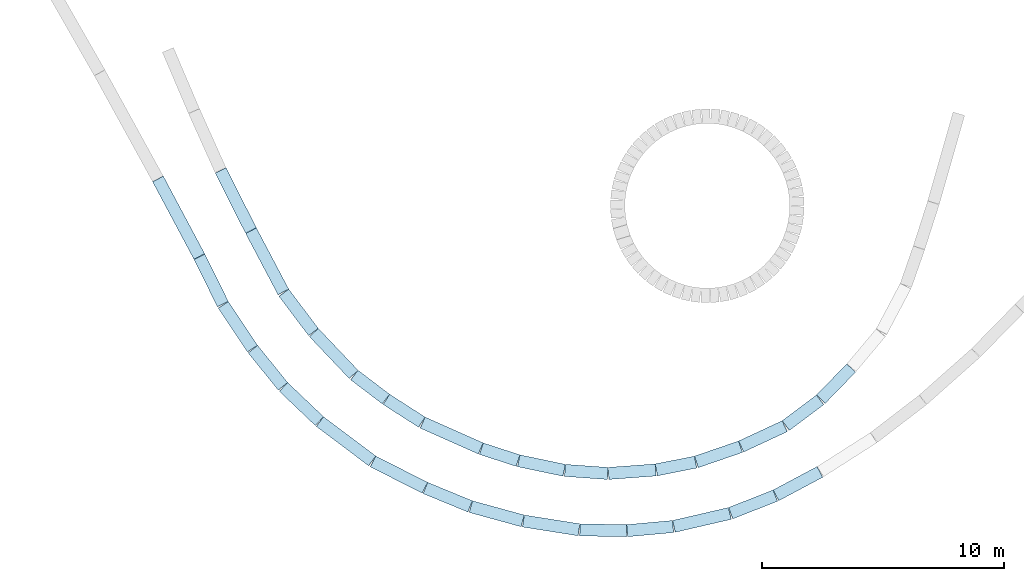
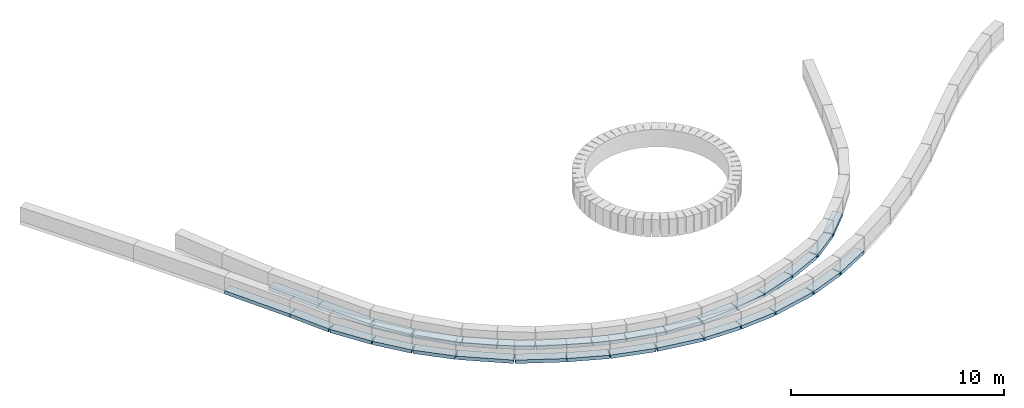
# One storey, part 1 of 3: 31 footings.
"""IFC2X3 building model written with IfcOpenShell, lengths in millimetres."""

from ifc_helpers import new_model, entity, si_unit, converted_unit, direction, origin, origin_with_axes, place, context, project, spatial, faceted_brep, element, save


model = new_model("IFC2X3")

# Units and contexts
model_context = context("Model", 3, precision=1e-05, world=origin(), true_north=direction((0.0, 1.0, 0.0)))
ifc_project = project(units=[si_unit("LENGTHUNIT", "METRE", prefix="MILLI"), si_unit("AREAUNIT", "SQUARE_METRE"), si_unit("VOLUMEUNIT", "CUBIC_METRE"), converted_unit("PLANEANGLEUNIT", "DEGREE", entity("IfcPlaneAngleMeasure", 0.01745), si_unit("PLANEANGLEUNIT", "RADIAN"), dimensions=[0, 0, 0, 0, 0, 0, 0]), si_unit("SOLIDANGLEUNIT", "STERADIAN"), si_unit("MASSUNIT", "GRAM"), si_unit("TIMEUNIT", "SECOND"), si_unit("THERMODYNAMICTEMPERATUREUNIT", "DEGREE_CELSIUS"), si_unit("LUMINOUSINTENSITYUNIT", "LUMEN")], contexts=[model_context])

# Site, building, storey
site_placement = place(None, origin_with_axes())
site = spatial("IfcSite", under=ifc_project, at=site_placement, Name="Default Site", CompositionType="ELEMENT")
building_placement = place(site_placement, origin_with_axes())
building = spatial("IfcBuilding", under=site, at=building_placement, Name="Default Building", CompositionType="ELEMENT")
storey_placement = place(building_placement, origin_with_axes())
storey = spatial("IfcBuildingStorey", under=building, at=storey_placement, Name="Fundação", CompositionType="ELEMENT", Elevation=0.0)

# Footings
footing_1_placement = place(storey_placement, origin_with_axes())
element("IfcFooting", 1, at=footing_1_placement, inside=storey, Name="IfcFooting - IfcFooting - Viga 34 (50x30)", context=model_context, shape_type="Brep", body=[
    faceted_brep([(2842.74104471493, -11232.03574500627, -2350.000011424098), (2842.74104471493, -11232.03574500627, -2150.000008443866), (4603.798958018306, -11357.05216608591, -2150.000008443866), (4603.798958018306, -11357.05216608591, -2350.000011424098), (2807.335468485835, -11730.78062019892, -2150.000008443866), (4568.39338178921, -11855.79704127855, -2150.000008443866), (2807.335468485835, -11730.78062019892, -2350.000011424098), (4568.39338178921, -11855.79704127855, -2350.000011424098)], [[[0, 1, 2]], [[0, 2, 3]], [[1, 4, 5]], [[1, 5, 2]], [[4, 6, 7]], [[4, 7, 5]], [[6, 0, 3]], [[6, 3, 7]], [[2, 5, 7]], [[2, 7, 3]], [[0, 6, 4]], [[0, 4, 1]]]),
])
footing_2_placement = place(storey_placement, origin_with_axes())
element("IfcFooting", 2, at=footing_2_placement, inside=storey, Name="IfcFooting - IfcFooting - Viga 26 (50x30)", context=model_context, shape_type="Brep", body=[
    faceted_brep([(-9905.185282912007, -1474.885329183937, -2350.000011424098), (-9905.185282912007, -1474.885329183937, -2150.000008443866), (-8571.523547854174, -4001.091107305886, -2150.000008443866), (-8571.523547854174, -4001.091107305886, -2350.000011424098), (-10347.34976359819, -1708.31762212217, -2150.000008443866), (-9013.688028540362, -4234.523400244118, -2150.000008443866), (-10347.34976359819, -1708.31762212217, -2350.000011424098), (-9013.688028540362, -4234.523400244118, -2350.000011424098)], [[[0, 1, 2]], [[0, 2, 3]], [[1, 4, 5]], [[1, 5, 2]], [[4, 6, 7]], [[4, 7, 5]], [[6, 0, 3]], [[6, 3, 7]], [[2, 5, 7]], [[2, 7, 3]], [[0, 6, 4]], [[0, 4, 1]]]),
])
footing_3_placement = place(storey_placement, origin_with_axes())
element("IfcFooting", 3, at=footing_3_placement, inside=storey, Name="IfcFooting - IfcFooting - Viga 31 (50x30)", context=model_context, shape_type="Brep", body=[
    faceted_brep([(-2942.669134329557, -9282.066652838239, -2350.000011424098), (-2942.669134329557, -9282.066652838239, -2150.000008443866), (-548.2295562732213, -10348.57268101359, -2150.000008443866), (-548.2295562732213, -10348.57268101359, -2350.000011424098), (-3146.10634345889, -9738.808701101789, -2150.000008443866), (-751.6667654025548, -10805.31472927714, -2150.000008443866), (-3146.10634345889, -9738.808701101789, -2350.000011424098), (-751.6667654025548, -10805.31472927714, -2350.000011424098)], [[[0, 1, 2]], [[0, 2, 3]], [[1, 4, 5]], [[1, 5, 2]], [[4, 6, 7]], [[4, 7, 5]], [[6, 0, 3]], [[6, 3, 7]], [[2, 5, 7]], [[2, 7, 3]], [[0, 6, 4]], [[0, 4, 1]]]),
])
footing_4_placement = place(storey_placement, origin_with_axes())
element("IfcFooting", 4, at=footing_4_placement, inside=storey, Name="IfcFooting - IfcFooting - Viga 39 (50x30)", context=model_context, shape_type="Brep", body=[
    faceted_brep([(13501.66512967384, -8769.874255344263, -2350.000011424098), (13501.66512967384, -8769.874255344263, -2150.000008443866), (12084.8342323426, -9832.9873189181, -2150.000008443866), (12084.8342323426, -9832.9873189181, -2350.000011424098), (13201.57660485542, -8369.940648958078, -2150.000008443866), (11784.74570752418, -9433.053712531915, -2150.000008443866), (13201.57660485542, -8369.940648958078, -2350.000011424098), (11784.74570752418, -9433.053712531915, -2350.000011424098)], [[[0, 1, 2]], [[0, 2, 3]], [[1, 4, 5]], [[1, 5, 2]], [[4, 6, 7]], [[4, 7, 5]], [[6, 0, 3]], [[6, 3, 7]], [[2, 5, 7]], [[2, 7, 3]], [[0, 6, 4]], [[0, 4, 1]]]),
])
footing_5_placement = place(storey_placement, origin_with_axes())
element("IfcFooting", 5, at=footing_5_placement, inside=storey, Name="IfcFooting - IfcFooting - Viga 35 (50x30)", context=model_context, shape_type="Brep", body=[
    faceted_brep([(6583.940725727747, -11712.65824277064, -2350.000011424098), (6583.940725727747, -11712.65824277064, -2150.000008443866), (4640.501718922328, -11855.70325095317, -2150.000008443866), (4640.501718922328, -11855.70325095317, -2350.000011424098), (6547.237973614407, -11214.00715548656, -2150.000008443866), (4603.798966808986, -11357.05216366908, -2150.000008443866), (6547.237973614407, -11214.00715548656, -2350.000011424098), (4603.798966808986, -11357.05216366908, -2350.000011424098)], [[[0, 1, 2]], [[0, 2, 3]], [[1, 4, 5]], [[1, 5, 2]], [[4, 6, 7]], [[4, 7, 5]], [[6, 0, 3]], [[6, 3, 7]], [[2, 5, 7]], [[2, 7, 3]], [[0, 6, 4]], [[0, 4, 1]]]),
])
footing_6_placement = place(storey_placement, origin_with_axes())
element("IfcFooting", 6, at=footing_6_placement, inside=storey, Name="IfcFooting - IfcFooting - Viga 36 (50x30)", context=model_context, shape_type="Brep", body=[
    faceted_brep([(8263.881479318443, -11384.51756334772, -2350.000011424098), (8263.881479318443, -11384.51756334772, -2150.000008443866), (6644.148920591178, -11704.52551341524, -2150.000008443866), (6644.148920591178, -11704.52551341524, -2350.000011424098), (8166.970585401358, -10893.99920201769, -2150.000008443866), (6547.238026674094, -11214.00715208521, -2150.000008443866), (8166.970585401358, -10893.99920201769, -2350.000011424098), (6547.238026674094, -11214.00715208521, -2350.000011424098)], [[[0, 1, 2]], [[0, 2, 3]], [[1, 4, 5]], [[1, 5, 2]], [[4, 6, 7]], [[4, 7, 5]], [[6, 0, 3]], [[6, 3, 7]], [[2, 5, 7]], [[2, 7, 3]], [[0, 6, 4]], [[0, 4, 1]]]),
])
footing_7_placement = place(storey_placement, origin_with_axes())
element("IfcFooting", 7, at=footing_7_placement, inside=storey, Name="IfcFooting - IfcFooting - Viga 25 (50x30)", context=model_context, shape_type="Brep", body=[
    faceted_brep([(-11156.33004497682, 1008.447391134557, -2350.000011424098), (-11156.33004497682, 1008.447391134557, -2150.000008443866), (-9905.185307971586, -1474.8853620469, -2150.000008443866), (-9905.185307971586, -1474.8853620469, -2350.000011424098), (-11602.85982083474, 783.4781232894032, -2150.000008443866), (-10351.71508382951, -1699.854629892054, -2150.000008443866), (-11602.85982083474, 783.4781232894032, -2350.000011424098), (-10351.71508382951, -1699.854629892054, -2350.000011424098)], [[[0, 1, 2]], [[0, 2, 3]], [[1, 4, 5]], [[1, 5, 2]], [[4, 6, 7]], [[4, 7, 5]], [[6, 0, 3]], [[6, 3, 7]], [[2, 5, 7]], [[2, 7, 3]], [[0, 6, 4]], [[0, 4, 1]]]),
])
footing_8_placement = place(storey_placement, origin_with_axes())
element("IfcFooting", 8, at=footing_8_placement, inside=storey, Name="IfcFooting - IfcFooting - Viga 28 (50x30)", context=model_context, shape_type="Brep", body=[
    faceted_brep([(-7352.012842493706, -5622.172136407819, -2350.000011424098), (-7352.012842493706, -5622.172136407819, -2150.000008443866), (-5712.023645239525, -7349.152882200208, -2150.000008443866), (-5712.023645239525, -7349.152882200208, -2350.000011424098), (-7714.579969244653, -5966.475923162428, -2150.000008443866), (-6074.590771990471, -7693.456668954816, -2150.000008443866), (-7714.579969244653, -5966.475923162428, -2350.000011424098), (-6074.590771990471, -7693.456668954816, -2350.000011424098)], [[[0, 1, 2]], [[0, 2, 3]], [[1, 4, 5]], [[1, 5, 2]], [[4, 6, 7]], [[4, 7, 5]], [[6, 0, 3]], [[6, 3, 7]], [[2, 5, 7]], [[2, 7, 3]], [[0, 6, 4]], [[0, 4, 1]]]),
])
footing_9_placement = place(storey_placement, origin_with_axes())
element("IfcFooting", 9, at=footing_9_placement, inside=storey, Name="IfcFooting - IfcFooting - Viga 29 (50x30)", context=model_context, shape_type="Brep", body=[
    faceted_brep([(-5712.023671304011, -7349.152886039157, -2350.000011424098), (-5712.023671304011, -7349.152886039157, -2150.000008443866), (-4407.186682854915, -8341.577999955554, -2150.000008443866), (-4407.186682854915, -8341.577999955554, -2350.000011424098), (-6014.710124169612, -7747.123890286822, -2150.000008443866), (-4709.873135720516, -8739.54900420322, -2150.000008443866), (-6014.710124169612, -7747.123890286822, -2350.000011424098), (-4709.873135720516, -8739.54900420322, -2350.000011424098)], [[[0, 1, 2]], [[0, 2, 3]], [[1, 4, 5]], [[1, 5, 2]], [[4, 6, 7]], [[4, 7, 5]], [[6, 0, 3]], [[6, 3, 7]], [[2, 5, 7]], [[2, 7, 3]], [[0, 6, 4]], [[0, 4, 1]]]),
])
footing_10_placement = place(storey_placement, origin_with_axes())
element("IfcFooting", 10, at=footing_10_placement, inside=storey, Name="IfcFooting - IfcFooting - Viga 40 (50x30)", context=model_context, shape_type="Brep", body=[
    faceted_brep([(14809.94226389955, -7434.057706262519, -2350.000011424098), (14809.94226389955, -7434.057706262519, -2150.000008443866), (13559.91725975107, -8718.641096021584, -2150.000008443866), (13559.91725975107, -8718.641096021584, -2350.000011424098), (14451.60161310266, -7085.357242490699, -2150.000008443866), (13201.57660895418, -8369.940632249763, -2150.000008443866), (14451.60161310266, -7085.357242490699, -2350.000011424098), (13201.57660895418, -8369.940632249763, -2350.000011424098)], [[[0, 1, 2]], [[0, 2, 3]], [[1, 4, 5]], [[1, 5, 2]], [[4, 6, 7]], [[4, 7, 5]], [[6, 0, 3]], [[6, 3, 7]], [[2, 5, 7]], [[2, 7, 3]], [[0, 6, 4]], [[0, 4, 1]]]),
])
footing_11_placement = place(storey_placement, origin_with_axes())
element("IfcFooting", 11, at=footing_11_placement, inside=storey, Name="IfcFooting - IfcFooting - Viga 33 (50x30)", context=model_context, shape_type="Brep", body=[
    faceted_brep([(968.5041125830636, -10840.00620850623, -2350.000011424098), (968.5041125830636, -10840.00620850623, -2150.000008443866), (2842.741053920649, -11232.03574725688, -2150.000008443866), (2842.741053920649, -11232.03574725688, -2350.000011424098), (866.1357577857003, -11329.4147462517, -2150.000008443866), (2740.372699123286, -11721.44428500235, -2150.000008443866), (866.1357577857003, -11329.4147462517, -2350.000011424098), (2740.372699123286, -11721.44428500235, -2350.000011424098)], [[[0, 1, 2]], [[0, 2, 3]], [[1, 4, 5]], [[1, 5, 2]], [[4, 6, 7]], [[4, 7, 5]], [[6, 0, 3]], [[6, 3, 7]], [[2, 5, 7]], [[2, 7, 3]], [[0, 6, 4]], [[0, 4, 1]]]),
])
footing_12_placement = place(storey_placement, origin_with_axes())
element("IfcFooting", 12, at=footing_12_placement, inside=storey, Name="IfcFooting - IfcFooting - Viga 38 (50x30)", context=model_context, shape_type="Brep", body=[
    faceted_brep([(11995.64429846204, -9886.398797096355, -2350.000011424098), (11995.64429846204, -9886.398797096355, -2150.000008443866), (10199.1056474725, -10722.15843683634, -2150.000008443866), (10199.1056474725, -10722.15843683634, -2350.000011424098), (11784.74572029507, -9433.053736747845, -2150.000008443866), (9988.207069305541, -10268.81337648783, -2150.000008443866), (11784.74572029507, -9433.053736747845, -2350.000011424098), (9988.207069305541, -10268.81337648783, -2350.000011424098)], [[[0, 1, 2]], [[0, 2, 3]], [[1, 4, 5]], [[1, 5, 2]], [[4, 6, 7]], [[4, 7, 5]], [[6, 0, 3]], [[6, 3, 7]], [[2, 5, 7]], [[2, 7, 3]], [[0, 6, 4]], [[0, 4, 1]]]),
])
footing_13_placement = place(storey_placement, origin_with_axes())
element("IfcFooting", 13, at=footing_13_placement, inside=storey, Name="IfcFooting - IfcFooting - Viga 37 (50x30)", context=model_context, shape_type="Brep", body=[
    faceted_brep([(10150.54617963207, -10741.72561387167, -2350.000011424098), (10150.54617963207, -10741.72561387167, -2150.000008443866), (8329.309748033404, -11366.91142390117, -2150.000008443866), (8329.309748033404, -11366.91142390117, -2350.000011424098), (9988.207028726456, -10268.8133842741, -2150.000008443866), (8166.970597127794, -10893.99919430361, -2150.000008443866), (9988.207028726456, -10268.8133842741, -2350.000011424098), (8166.970597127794, -10893.99919430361, -2350.000011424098)], [[[0, 1, 2]], [[0, 2, 3]], [[1, 4, 5]], [[1, 5, 2]], [[4, 6, 7]], [[4, 7, 5]], [[6, 0, 3]], [[6, 3, 7]], [[2, 5, 7]], [[2, 7, 3]], [[0, 6, 4]], [[0, 4, 1]]]),
])
footing_14_placement = place(storey_placement, origin_with_axes())
element("IfcFooting", 14, at=footing_14_placement, inside=storey, Name="IfcFooting - IfcFooting - Viga 30 (50x30)", context=model_context, shape_type="Brep", body=[
    faceted_brep([(-4407.186720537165, -8341.578014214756, -2350.000011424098), (-4407.186720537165, -8341.578014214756, -2150.000008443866), (-2942.669186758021, -9282.06665070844, -2150.000008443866), (-2942.669186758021, -9282.06665070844, -2350.000011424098), (-4677.364859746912, -8762.29614766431, -2150.000008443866), (-3212.847325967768, -9702.784784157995, -2150.000008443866), (-4677.364859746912, -8762.29614766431, -2350.000011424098), (-3212.847325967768, -9702.784784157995, -2350.000011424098)], [[[0, 1, 2]], [[0, 2, 3]], [[1, 4, 5]], [[1, 5, 2]], [[4, 6, 7]], [[4, 7, 5]], [[6, 0, 3]], [[6, 3, 7]], [[2, 5, 7]], [[2, 7, 3]], [[0, 6, 4]], [[0, 4, 1]]]),
])
footing_15_placement = place(storey_placement, origin_with_axes())
element("IfcFooting", 15, at=footing_15_placement, inside=storey, Name="IfcFooting - IfcFooting - Viga 27 (50x30)", context=model_context, shape_type="Brep", body=[
    faceted_brep([(-8571.523562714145, -4001.091105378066, -2350.000011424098), (-8571.523562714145, -4001.091105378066, -2150.000008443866), (-7352.012858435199, -5622.172099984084, -2150.000008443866), (-7352.012858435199, -5622.172099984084, -2350.000011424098), (-8971.085414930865, -4301.674467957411, -2150.000008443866), (-7751.574710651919, -5922.75546256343, -2150.000008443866), (-8971.085414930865, -4301.674467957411, -2350.000011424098), (-7751.574710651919, -5922.75546256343, -2350.000011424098)], [[[0, 1, 2]], [[0, 2, 3]], [[1, 4, 5]], [[1, 5, 2]], [[4, 6, 7]], [[4, 7, 5]], [[6, 0, 3]], [[6, 3, 7]], [[2, 5, 7]], [[2, 7, 3]], [[0, 6, 4]], [[0, 4, 1]]]),
])
footing_16_placement = place(storey_placement, origin_with_axes())
element("IfcFooting", 16, at=footing_16_placement, inside=storey, Name="IfcFooting - IfcFooting - Viga 32 (50x30)", context=model_context, shape_type="Brep", body=[
    faceted_brep([(-548.2294947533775, -10348.57266923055, -2350.000011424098), (-548.2294947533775, -10348.57266923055, -2150.000008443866), (968.5041516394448, -10840.00621052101, -2150.000008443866), (968.5041516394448, -10840.00621052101, -2350.000011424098), (-702.3456484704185, -10824.22824451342, -2150.000008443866), (814.3879979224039, -11315.66178580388, -2150.000008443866), (-702.3456484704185, -10824.22824451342, -2350.000011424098), (814.3879979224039, -11315.66178580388, -2350.000011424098)], [[[0, 1, 2]], [[0, 2, 3]], [[1, 4, 5]], [[1, 5, 2]], [[4, 6, 7]], [[4, 7, 5]], [[6, 0, 3]], [[6, 3, 7]], [[2, 5, 7]], [[2, 7, 3]], [[0, 6, 4]], [[0, 4, 1]]]),
])
footing_17_placement = place(storey_placement, origin_with_axes())
element("IfcFooting", 17, at=footing_17_placement, inside=storey, Name="IfcFooting - IfcFooting - Viga 83 (50x30)", context=model_context, shape_type="Brep", body=[
    faceted_brep([(7308.488050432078, -14045.58771181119, -1449.99999884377), (7308.488050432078, -14045.58771181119, -1249.999995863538), (5414.970556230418, -14217.3666738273, -1249.999995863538), (5414.970556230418, -14217.3666738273, -1449.99999884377), (7263.313809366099, -13547.63261306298, -1249.999995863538), (5369.796315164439, -13719.41157507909, -1249.999995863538), (7263.313809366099, -13547.63261306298, -1449.99999884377), (5369.796315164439, -13719.41157507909, -1449.99999884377)], [[[0, 1, 2]], [[0, 2, 3]], [[1, 4, 5]], [[1, 5, 2]], [[4, 6, 7]], [[4, 7, 5]], [[6, 0, 3]], [[6, 3, 7]], [[2, 5, 7]], [[2, 7, 3]], [[0, 6, 4]], [[0, 4, 1]]]),
])
footing_18_placement = place(storey_placement, origin_with_axes())
element("IfcFooting", 18, at=footing_18_placement, inside=storey, Name="IfcFooting - IfcFooting - Viga 82 (50x30)", context=model_context, shape_type="Brep", body=[
    faceted_brep([(3442.525894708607, -13684.85498904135, -1449.99999884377), (3442.525894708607, -13684.85498904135, -1249.999995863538), (5369.796307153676, -13719.41157161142, -1249.999995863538), (5369.796307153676, -13719.41157161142, -1449.99999884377), (3433.562190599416, -14184.77462707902, -1249.999995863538), (5360.832603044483, -14219.3312096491, -1249.999995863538), (3433.562190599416, -14184.77462707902, -1449.99999884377), (5360.832603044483, -14219.3312096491, -1449.99999884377)], [[[0, 1, 2]], [[0, 2, 3]], [[1, 4, 5]], [[1, 5, 2]], [[4, 6, 7]], [[4, 7, 5]], [[6, 0, 3]], [[6, 3, 7]], [[2, 5, 7]], [[2, 7, 3]], [[0, 6, 4]], [[0, 4, 1]]]),
])
footing_19_placement = place(storey_placement, origin_with_axes())
element("IfcFooting", 19, at=footing_19_placement, inside=storey, Name="IfcFooting - IfcFooting - Viga 85 (50x30)", context=model_context, shape_type="Brep", body=[
    faceted_brep([(11594.88410922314, -12756.06633354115, -1449.99999884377), (11594.88410922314, -12756.06633354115, -1249.999995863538), (9754.323255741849, -13478.47415138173, -1249.999995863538), (9754.323255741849, -13478.47415138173, -1449.99999884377), (11412.20463486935, -12290.63297439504, -1249.999995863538), (9571.643781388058, -13013.04079223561, -1249.999995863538), (11412.20463486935, -12290.63297439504, -1449.99999884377), (9571.643781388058, -13013.04079223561, -1449.99999884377)], [[[0, 1, 2]], [[0, 2, 3]], [[1, 4, 5]], [[1, 5, 2]], [[4, 6, 7]], [[4, 7, 5]], [[6, 0, 3]], [[6, 3, 7]], [[2, 5, 7]], [[2, 7, 3]], [[0, 6, 4]], [[0, 4, 1]]]),
])
footing_20_placement = place(storey_placement, origin_with_axes())
element("IfcFooting", 20, at=footing_20_placement, inside=storey, Name="IfcFooting - IfcFooting - Viga 86 (50x30)", context=model_context, shape_type="Brep", body=[
    faceted_brep([(13461.29023233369, -11764.98235515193, -1449.99999884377), (13461.29023233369, -11764.98235515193, -1249.999995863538), (11647.39870229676, -12731.8627958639, -1249.999995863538), (11647.39870229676, -12731.8627958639, -1449.99999884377), (13226.09614530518, -11323.75253490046, -1249.999995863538), (11412.20461526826, -12290.63297561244, -1249.999995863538), (13226.09614530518, -11323.75253490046, -1449.99999884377), (11412.20461526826, -12290.63297561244, -1449.99999884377)], [[[0, 1, 2]], [[0, 2, 3]], [[1, 4, 5]], [[1, 5, 2]], [[4, 6, 7]], [[4, 7, 5]], [[6, 0, 3]], [[6, 3, 7]], [[2, 5, 7]], [[2, 7, 3]], [[0, 6, 4]], [[0, 4, 1]]]),
])
footing_21_placement = place(storey_placement, origin_with_axes())
element("IfcFooting", 21, at=footing_21_placement, inside=storey, Name="IfcFooting - IfcFooting - Viga 84 (50x30)", context=model_context, shape_type="Brep", body=[
    faceted_brep([(9684.454240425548, -13500.14837259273, -1449.99999884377), (9684.454240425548, -13500.14837259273, -1249.999995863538), (7376.124300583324, -14034.74020572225, -1249.999995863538), (7376.124300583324, -14034.74020572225, -1449.99999884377), (9571.643747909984, -13013.0407771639, -1249.999995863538), (7263.31380806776, -13547.63261029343, -1249.999995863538), (9571.643747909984, -13013.0407771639, -1449.99999884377), (7263.31380806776, -13547.63261029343, -1449.99999884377)], [[[0, 1, 2]], [[0, 2, 3]], [[1, 4, 5]], [[1, 5, 2]], [[4, 6, 7]], [[4, 7, 5]], [[6, 0, 3]], [[6, 3, 7]], [[2, 5, 7]], [[2, 7, 3]], [[0, 6, 4]], [[0, 4, 1]]]),
])
footing_22_placement = place(storey_placement, origin_with_axes())
element("IfcFooting", 22, at=footing_22_placement, inside=storey, Name="IfcFooting - IfcFooting - Viga 81 (50x30)", context=model_context, shape_type="Brep", body=[
    faceted_brep([(1148.230934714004, -13322.75409457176, -1449.99999884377), (1148.230934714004, -13322.75409457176, -1249.999995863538), (3442.525888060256, -13684.8549863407, -1249.999995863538), (3442.525888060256, -13684.8549863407, -1449.99999884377), (1070.282483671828, -13816.64075163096, -1249.999995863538), (3364.577437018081, -14178.74164339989, -1249.999995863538), (1070.282483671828, -13816.64075163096, -1449.99999884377), (3364.577437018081, -14178.74164339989, -1449.99999884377)], [[[0, 1, 2]], [[0, 2, 3]], [[1, 4, 5]], [[1, 5, 2]], [[4, 6, 7]], [[4, 7, 5]], [[6, 0, 3]], [[6, 3, 7]], [[2, 5, 7]], [[2, 7, 3]], [[0, 6, 4]], [[0, 4, 1]]]),
])
footing_23_placement = place(storey_placement, origin_with_axes())
element("IfcFooting", 23, at=footing_23_placement, inside=storey, Name="IfcFooting - IfcFooting - Viga 80 (50x30)", context=model_context, shape_type="Brep", body=[
    faceted_brep([(-991.2113784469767, -12735.94125662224, -1449.99999884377), (-991.2113784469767, -12735.94125662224, -1249.999995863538), (1148.23094619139, -13322.75408808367, -1249.999995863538), (1148.23094619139, -13322.75408808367, -1449.99999884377), (-1123.46824394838, -13218.13224558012, -1249.999995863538), (1015.974080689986, -13804.94507704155, -1249.999995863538), (-1123.46824394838, -13218.13224558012, -1449.99999884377), (1015.974080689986, -13804.94507704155, -1449.99999884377)], [[[0, 1, 2]], [[0, 2, 3]], [[1, 4, 5]], [[1, 5, 2]], [[4, 6, 7]], [[4, 7, 5]], [[6, 0, 3]], [[6, 3, 7]], [[2, 5, 7]], [[2, 7, 3]], [[0, 6, 4]], [[0, 4, 1]]]),
])
footing_24_placement = place(storey_placement, origin_with_axes())
element("IfcFooting", 24, at=footing_24_placement, inside=storey, Name="IfcFooting - IfcFooting - Viga 74 (50x30)", context=model_context, shape_type="Brep", body=[
    faceted_brep([(-11063.40820248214, -4509.322820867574, -1449.99999884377), (-11063.40820248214, -4509.322820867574, -1249.999995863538), (-9855.64172918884, -6321.962414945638, -1249.999995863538), (-9855.64172918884, -6321.962414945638, -1449.99999884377), (-11479.50328047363, -4786.567984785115, -1249.999995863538), (-10271.73680718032, -6599.207578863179, -1249.999995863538), (-11479.50328047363, -4786.567984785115, -1449.99999884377), (-10271.73680718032, -6599.207578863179, -1449.99999884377)], [[[0, 1, 2]], [[0, 2, 3]], [[1, 4, 5]], [[1, 5, 2]], [[4, 6, 7]], [[4, 7, 5]], [[6, 0, 3]], [[6, 3, 7]], [[2, 5, 7]], [[2, 7, 3]], [[0, 6, 4]], [[0, 4, 1]]]),
])
footing_25_placement = place(storey_placement, origin_with_axes())
element("IfcFooting", 25, at=footing_25_placement, inside=storey, Name="IfcFooting - IfcFooting - Viga 75 (50x30)", context=model_context, shape_type="Brep", body=[
    faceted_brep([(-9855.641741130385, -6321.962396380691, -1449.99999884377), (-9855.641741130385, -6321.962396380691, -1249.999995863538), (-8613.594520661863, -7856.721381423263, -1249.999995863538), (-8613.594520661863, -7856.721381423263, -1449.99999884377), (-10244.3108445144, -6636.503915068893, -1249.999995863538), (-9002.26362404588, -8171.262900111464, -1249.999995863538), (-10244.3108445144, -6636.503915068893, -1449.99999884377), (-9002.26362404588, -8171.262900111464, -1449.99999884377)], [[[0, 1, 2]], [[0, 2, 3]], [[1, 4, 5]], [[1, 5, 2]], [[4, 6, 7]], [[4, 7, 5]], [[6, 0, 3]], [[6, 3, 7]], [[2, 5, 7]], [[2, 7, 3]], [[0, 6, 4]], [[0, 4, 1]]]),
])
footing_26_placement = place(storey_placement, origin_with_axes())
element("IfcFooting", 26, at=footing_26_placement, inside=storey, Name="IfcFooting - IfcFooting - Viga 72 (50x30)", context=model_context, shape_type="Brep", body=[
    faceted_brep([(-13744.5145744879, 659.7514598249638, -1449.99999884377), (-13744.5145744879, 659.7514598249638, -1249.999995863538), (-12038.52819391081, -2541.593507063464, -1249.999995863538), (-12038.52819391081, -2541.593507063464, -1449.99999884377), (-14185.77097841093, 424.6073214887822, -1249.999995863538), (-12479.78459783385, -2776.737645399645, -1249.999995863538), (-14185.77097841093, 424.6073214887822, -1449.99999884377), (-12479.78459783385, -2776.737645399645, -1449.99999884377)], [[[0, 1, 2]], [[0, 2, 3]], [[1, 4, 5]], [[1, 5, 2]], [[4, 6, 7]], [[4, 7, 5]], [[6, 0, 3]], [[6, 3, 7]], [[2, 5, 7]], [[2, 7, 3]], [[0, 6, 4]], [[0, 4, 1]]]),
])
footing_27_placement = place(storey_placement, origin_with_axes())
element("IfcFooting", 27, at=footing_27_placement, inside=storey, Name="IfcFooting - IfcFooting - Viga 73 (50x30)", context=model_context, shape_type="Brep", body=[
    faceted_brep([(-12031.75525088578, -2554.769804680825, -1449.99999884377), (-12031.75525088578, -2554.769804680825, -1249.999995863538), (-11063.40820808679, -4509.322812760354, -1249.999995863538), (-11063.40820808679, -4509.322812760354, -1449.99999884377), (-12479.78456039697, -2776.737621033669, -1249.999995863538), (-11511.43751759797, -4731.290629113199, -1249.999995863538), (-12479.78456039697, -2776.737621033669, -1449.99999884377), (-11511.43751759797, -4731.290629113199, -1449.99999884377)], [[[0, 1, 2]], [[0, 2, 3]], [[1, 4, 5]], [[1, 5, 2]], [[4, 6, 7]], [[4, 7, 5]], [[6, 0, 3]], [[6, 3, 7]], [[2, 5, 7]], [[2, 7, 3]], [[0, 6, 4]], [[0, 4, 1]]]),
])
footing_28_placement = place(storey_placement, origin_with_axes())
element("IfcFooting", 28, at=footing_28_placement, inside=storey, Name="IfcFooting - IfcFooting - Viga 78 (50x30)", context=model_context, shape_type="Brep", body=[
    faceted_brep([(-4976.736673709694, -10890.19632103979, -1449.99999884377), (-4976.736673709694, -10890.19632103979, -1249.999995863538), (-2837.491282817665, -11976.64013269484, -1249.999995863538), (-2837.491282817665, -11976.64013269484, -1449.99999884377), (-5203.143367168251, -11335.9989798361, -1249.999995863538), (-3063.897976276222, -12422.44279149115, -1249.999995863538), (-5203.143367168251, -11335.9989798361, -1449.99999884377), (-3063.897976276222, -12422.44279149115, -1449.99999884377)], [[[0, 1, 2]], [[0, 2, 3]], [[1, 4, 5]], [[1, 5, 2]], [[4, 6, 7]], [[4, 7, 5]], [[6, 0, 3]], [[6, 3, 7]], [[2, 5, 7]], [[2, 7, 3]], [[0, 6, 4]], [[0, 4, 1]]]),
])
footing_29_placement = place(storey_placement, origin_with_axes())
element("IfcFooting", 29, at=footing_29_placement, inside=storey, Name="IfcFooting - IfcFooting - Viga 76 (50x30)", context=model_context, shape_type="Brep", body=[
    faceted_brep([(-8613.594539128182, -7856.72140204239, -1449.99999884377), (-8613.594539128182, -7856.72140204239, -1249.999995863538), (-7132.388539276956, -9268.758357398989, -1249.999995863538), (-7132.388539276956, -9268.758357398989, -1449.99999884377), (-8958.596892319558, -8218.623817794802, -1249.999995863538), (-7477.390892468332, -9630.6607731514, -1249.999995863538), (-8958.596892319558, -8218.623817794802, -1449.99999884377), (-7477.390892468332, -9630.6607731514, -1449.99999884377)], [[[0, 1, 2]], [[0, 2, 3]], [[1, 4, 5]], [[1, 5, 2]], [[4, 6, 7]], [[4, 7, 5]], [[6, 0, 3]], [[6, 3, 7]], [[2, 5, 7]], [[2, 7, 3]], [[0, 6, 4]], [[0, 4, 1]]]),
])
footing_30_placement = place(storey_placement, origin_with_axes())
element("IfcFooting", 30, at=footing_30_placement, inside=storey, Name="IfcFooting - IfcFooting - Viga 79 (50x30)", context=model_context, shape_type="Brep", body=[
    faceted_brep([(-2837.491299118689, -11976.64009355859, -1449.99999884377), (-2837.491299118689, -11976.64009355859, -1249.999995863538), (-991.2114395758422, -12735.94126426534, -1249.999995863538), (-991.2114395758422, -12735.94126426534, -1449.99999884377), (-3027.666593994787, -12439.0612872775, -1249.999995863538), (-1181.386734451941, -13198.36245798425, -1249.999995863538), (-3027.666593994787, -12439.0612872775, -1449.99999884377), (-1181.386734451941, -13198.36245798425, -1449.99999884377)], [[[0, 1, 2]], [[0, 2, 3]], [[1, 4, 5]], [[1, 5, 2]], [[4, 6, 7]], [[4, 7, 5]], [[6, 0, 3]], [[6, 3, 7]], [[2, 5, 7]], [[2, 7, 3]], [[0, 6, 4]], [[0, 4, 1]]]),
])
footing_31_placement = place(storey_placement, origin_with_axes())
element("IfcFooting", 31, at=footing_31_placement, inside=storey, Name="IfcFooting - IfcFooting - Viga 77 (50x30)", context=model_context, shape_type="Brep", body=[
    faceted_brep([(-7132.388522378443, -9268.758366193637, -1449.99999884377), (-7132.388522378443, -9268.758366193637, -1249.999995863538), (-4976.736714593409, -10890.19633301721, -1249.999995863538), (-4976.736714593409, -10890.19633301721, -1449.99999884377), (-7432.945658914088, -9668.339858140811, -1249.999995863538), (-5277.293851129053, -11289.77782496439, -1249.999995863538), (-7432.945658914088, -9668.339858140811, -1449.99999884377), (-5277.293851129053, -11289.77782496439, -1449.99999884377)], [[[0, 1, 2]], [[0, 2, 3]], [[1, 4, 5]], [[1, 5, 2]], [[4, 6, 7]], [[4, 7, 5]], [[6, 0, 3]], [[6, 3, 7]], [[2, 5, 7]], [[2, 7, 3]], [[0, 6, 4]], [[0, 4, 1]]]),
])

save(model, "model.ifc")
